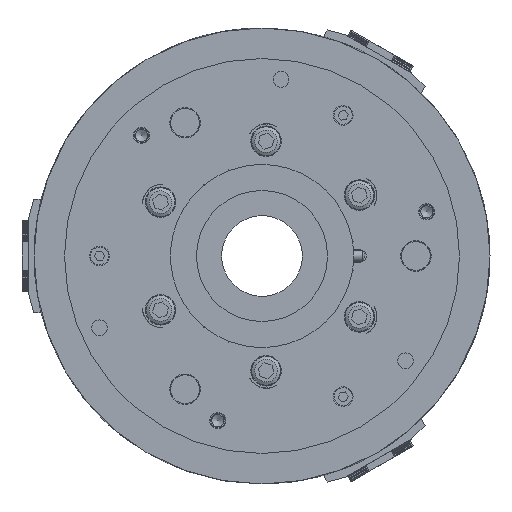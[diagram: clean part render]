
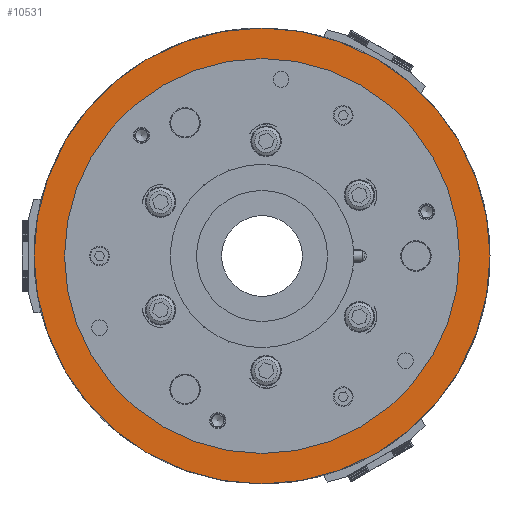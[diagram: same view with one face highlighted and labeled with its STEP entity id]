
A CAD part, left-side view. The second image highlights one B-rep face of the part: STEP entity #10531.
In plain terms, the highlighted planar face has unit normal (-1, 0, 0).
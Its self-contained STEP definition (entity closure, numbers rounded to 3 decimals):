
#4866 = DIRECTION ( 'NONE',  ( 1., 0., 0. ) ) ;
#7309 = FACE_BOUND ( 'NONE', #49815, .T. ) ;
#10531 = ADVANCED_FACE ( 'NONE', ( #7309, #68329 ), #12376, .T. ) ;
#12376 = PLANE ( 'NONE',  #43260 ) ;
#18137 = EDGE_CURVE ( 'NONE', #36684, #36684, #59178, .T. ) ;
#22587 = VERTEX_POINT ( 'NONE', #48351 ) ;
#23212 = CARTESIAN_POINT ( 'NONE',  ( -117., 0., -110. ) ) ;
#23258 = CARTESIAN_POINT ( 'NONE',  ( -117., 0., 0. ) ) ;
#24437 = DIRECTION ( 'NONE',  ( -1., 0., 0. ) ) ;
#24971 = DIRECTION ( 'NONE',  ( 1., 0., 0. ) ) ;
#30549 = AXIS2_PLACEMENT_3D ( 'NONE', #42508, #24971, #71873 ) ;
#34564 = ORIENTED_EDGE ( 'NONE', *, *, #18137, .T. ) ;
#36684 = VERTEX_POINT ( 'NONE', #23212 ) ;
#42268 = EDGE_CURVE ( 'NONE', #22587, #22587, #47731, .T. ) ;
#42508 = CARTESIAN_POINT ( 'NONE',  ( -117., 0., 0. ) ) ;
#43260 = AXIS2_PLACEMENT_3D ( 'NONE', #48544, #24437, #65329 ) ;
#44433 = ORIENTED_EDGE ( 'NONE', *, *, #42268, .F. ) ;
#46845 = DIRECTION ( 'NONE',  ( 0., 0., -1. ) ) ;
#47731 = CIRCLE ( 'NONE', #30549, 127. ) ;
#48351 = CARTESIAN_POINT ( 'NONE',  ( -117., 0., -127. ) ) ;
#48544 = CARTESIAN_POINT ( 'NONE',  ( -117., 63.5, -109.985 ) ) ;
#49815 = EDGE_LOOP ( 'NONE', ( #34564 ) ) ;
#59178 = CIRCLE ( 'NONE', #75753, 110. ) ;
#65329 = DIRECTION ( 'NONE',  ( 0., 0., 1. ) ) ;
#68329 = FACE_OUTER_BOUND ( 'NONE', #70560, .T. ) ;
#70560 = EDGE_LOOP ( 'NONE', ( #44433 ) ) ;
#71873 = DIRECTION ( 'NONE',  ( 0., 0., -1. ) ) ;
#75753 = AXIS2_PLACEMENT_3D ( 'NONE', #23258, #4866, #46845 ) ;
